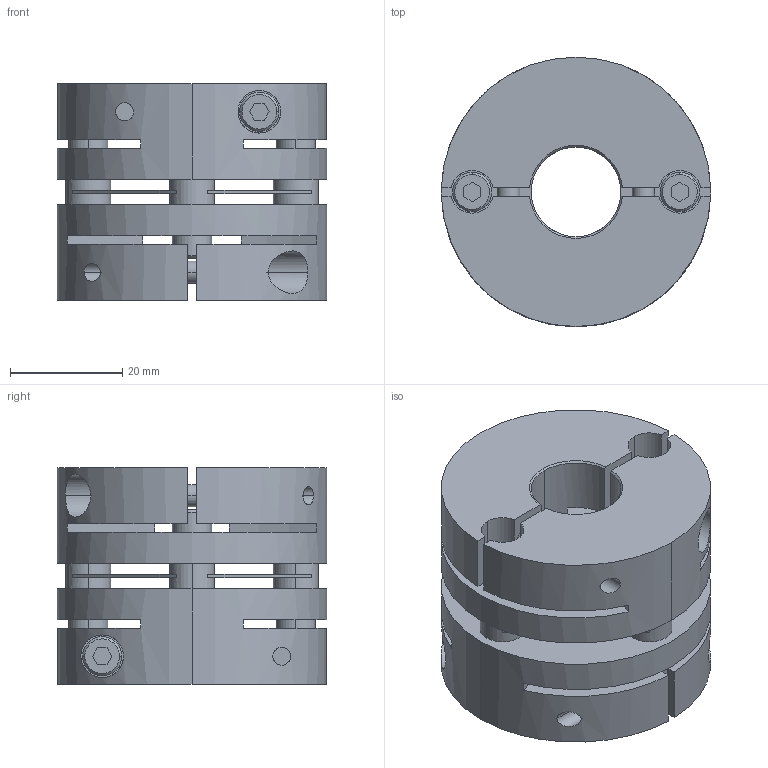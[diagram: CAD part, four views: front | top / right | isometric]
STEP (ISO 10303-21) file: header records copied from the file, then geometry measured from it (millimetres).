
FILE_DESCRIPTION((''),'2;1');
FILE_NAME('LAS-48C-16×20.stp','2011-08-09T17:00:59',(''),(''),'AutoCAD STEP 2000i','AutoCAD 2000i',', , ');
FILE_SCHEMA(('CONFIG_CONTROL_DESIGN'));
Length unit declared in the file: millimetre
Products named in the file (6): LAS-48C-12×19; 忣兜1; LA-4802-D19; LA-4802-D12-1; LA-4802-D12; LAS48-ITA
Assembly tree (5 placements, depth 2):
  LAS-48C-12×19
    忣兜1
    LA-4802-D19
    LA-4802-D12-1
    LA-4802-D12
    LAS48-ITA
Bounding box: 48 x 48 x 38.6 mm (x, y, z)
Volume: 47528.6 mm3; surface area: 22027.2 mm2
Topology: 1 solids, 1 shells, 224 faces, 600 edges, 392 vertices
Faces by surface type: plane 112, cylinder 84, cone 28
Entity records: 7841 total; most frequent: CARTESIAN_POINT 1878, DIRECTION 1256, ORIENTED_EDGE 1200, EDGE_CURVE 600, AXIS2_PLACEMENT_3D 458, VERTEX_POINT 392, VECTOR 340, LINE 340
